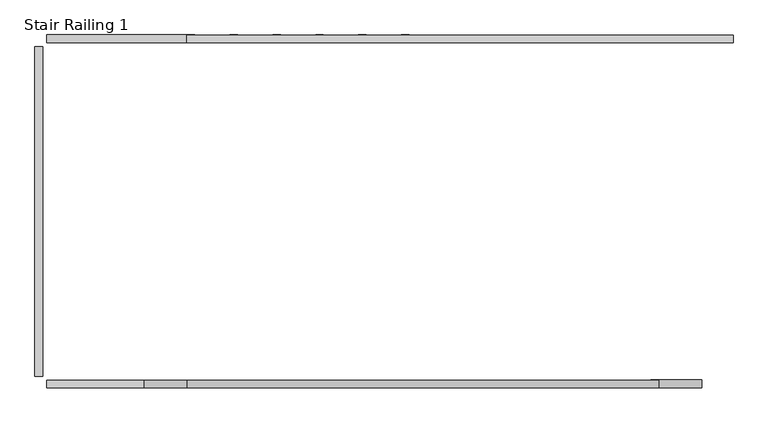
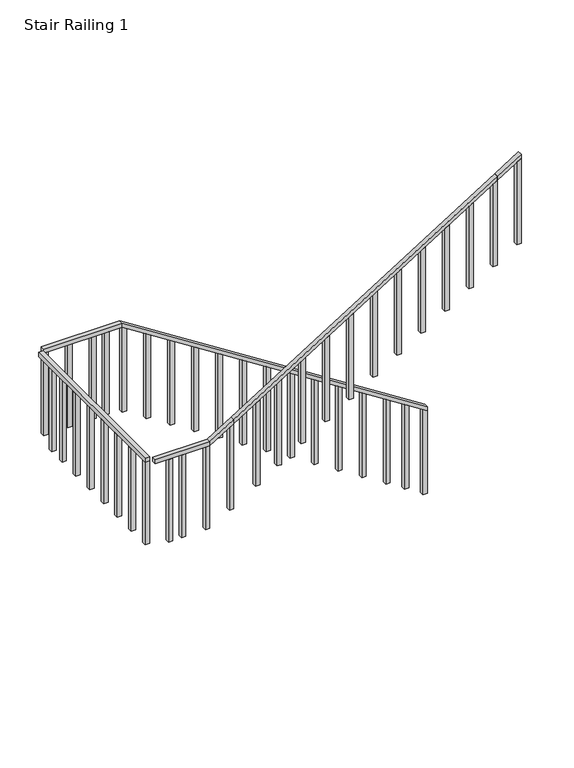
"""IFC4 building model written with IfcOpenShell, lengths in millimetres: railing geometry, Stair Railing 1."""

from ifc_helpers import new_model, si_unit, frame, origin, place, context, project, spatial, polyline, outline, extrude, source, transform, mapped, element, save


def stair_railing_1_055cd317(model_context):
    return source(origin(), model_context, "Body", "SweptSolid", [
        extrude(outline(polyline([(13727.2888889, -65612.3987232), (13676.4888889, -65612.3987232), (11401.7777778, -62053.9245409), (11452.5777778, -62053.9245409), (13727.2888889, -65612.3987232)])), frame((0.0, 33673.381749, 0.0), z_axis=(0.0, 1.0, 0.0), x_axis=(0.0, 0.0, 1.0)), (0.0, 0.0, 1.0), 50.8),
        extrude(outline(polyline([(11434.2510566, -62104.7245409), (10385.7777778, -62104.7245409), (10385.7777778, -62053.9245409), (11401.7777778, -62053.9245409), (11434.2510566, -62104.7245409)])), frame((0.0, 33673.381749, 0.0), z_axis=(0.0, 1.0, 0.0), x_axis=(0.0, 0.0, 1.0)), (0.0, 0.0, 1.0), 50.8),
        extrude(outline(polyline([(11573.0532872, -62321.8616321), (10524.5800084, -62321.8616321), (10524.5800084, -62271.0616321), (11540.5800084, -62271.0616321), (11573.0532872, -62321.8616321)])), frame((0.0, 33673.381749, 0.0), z_axis=(0.0, 1.0, 0.0), x_axis=(0.0, 0.0, 1.0)), (0.0, 0.0, 1.0), 50.8),
        extrude(outline(polyline([(11711.8555178, -62538.9987232), (10663.3822389, -62538.9987232), (10663.3822389, -62488.1987232), (11679.3822389, -62488.1987232), (11711.8555178, -62538.9987232)])), frame((0.0, 33673.381749, 0.0), z_axis=(0.0, 1.0, 0.0), x_axis=(0.0, 0.0, 1.0)), (0.0, 0.0, 1.0), 50.8),
        extrude(outline(polyline([(11890.4585515, -62818.3987232), (10841.9852727, -62818.3987232), (10841.9852727, -62767.5987232), (11857.9852727, -62767.5987232), (11890.4585515, -62818.3987232)])), frame((0.0, 33673.381749, 0.0), z_axis=(0.0, 1.0, 0.0), x_axis=(0.0, 0.0, 1.0)), (0.0, 0.0, 1.0), 50.8),
        extrude(outline(polyline([(12069.0615853, -63097.7987232), (11020.5883064, -63097.7987232), (11020.5883064, -63046.9987232), (12036.5883064, -63046.9987232), (12069.0615853, -63097.7987232)])), frame((0.0, 33673.381749, 0.0), z_axis=(0.0, 1.0, 0.0), x_axis=(0.0, 0.0, 1.0)), (0.0, 0.0, 1.0), 50.8),
        extrude(outline(polyline([(12247.664619, -63377.1987232), (11199.1913401, -63377.1987232), (11199.1913401, -63326.3987232), (12215.1913401, -63326.3987232), (12247.664619, -63377.1987232)])), frame((0.0, 33673.381749, 0.0), z_axis=(0.0, 1.0, 0.0), x_axis=(0.0, 0.0, 1.0)), (0.0, 0.0, 1.0), 50.8),
        extrude(outline(polyline([(12426.2676527, -63656.5987232), (11377.7943739, -63656.5987232), (11377.7943739, -63605.7987232), (12393.7943739, -63605.7987232), (12426.2676527, -63656.5987232)])), frame((0.0, 33673.381749, 0.0), z_axis=(0.0, 1.0, 0.0), x_axis=(0.0, 0.0, 1.0)), (0.0, 0.0, 1.0), 50.8),
        extrude(outline(polyline([(12604.8706865, -63935.9987232), (11556.3974076, -63935.9987232), (11556.3974076, -63885.1987232), (12572.3974076, -63885.1987232), (12604.8706865, -63935.9987232)])), frame((0.0, 33673.381749, 0.0), z_axis=(0.0, 1.0, 0.0), x_axis=(0.0, 0.0, 1.0)), (0.0, 0.0, 1.0), 50.8),
        extrude(outline(polyline([(12783.4737202, -64215.3987232), (11735.0004413, -64215.3987232), (11735.0004413, -64164.5987232), (12751.0004413, -64164.5987232), (12783.4737202, -64215.3987232)])), frame((0.0, 33673.381749, 0.0), z_axis=(0.0, 1.0, 0.0), x_axis=(0.0, 0.0, 1.0)), (0.0, 0.0, 1.0), 50.8),
        extrude(outline(polyline([(12962.0767539, -64494.7987232), (11913.6034751, -64494.7987232), (11913.6034751, -64443.9987232), (12929.6034751, -64443.9987232), (12962.0767539, -64494.7987232)])), frame((0.0, 33673.381749, 0.0), z_axis=(0.0, 1.0, 0.0), x_axis=(0.0, 0.0, 1.0)), (0.0, 0.0, 1.0), 50.8),
        extrude(outline(polyline([(13140.6797877, -64774.1987232), (12092.2065088, -64774.1987232), (12092.2065088, -64723.3987232), (13108.2065088, -64723.3987232), (13140.6797877, -64774.1987232)])), frame((0.0, 33673.381749, 0.0), z_axis=(0.0, 1.0, 0.0), x_axis=(0.0, 0.0, 1.0)), (0.0, 0.0, 1.0), 50.8),
        extrude(outline(polyline([(13319.2828214, -65053.5987232), (12270.8095426, -65053.5987232), (12270.8095426, -65002.7987232), (13286.8095426, -65002.7987232), (13319.2828214, -65053.5987232)])), frame((0.0, 33673.381749, 0.0), z_axis=(0.0, 1.0, 0.0), x_axis=(0.0, 0.0, 1.0)), (0.0, 0.0, 1.0), 50.8),
        extrude(outline(polyline([(13497.8858552, -65332.9987232), (12449.4125763, -65332.9987232), (12449.4125763, -65282.1987232), (13465.4125763, -65282.1987232), (13497.8858552, -65332.9987232)])), frame((0.0, 33673.381749, 0.0), z_axis=(0.0, 1.0, 0.0), x_axis=(0.0, 0.0, 1.0)), (0.0, 0.0, 1.0), 50.8),
        extrude(outline(polyline([(13676.4888889, -65612.3987232), (12628.01561, -65612.3987232), (12628.01561, -65561.5987232), (13644.01561, -65561.5987232), (13676.4888889, -65612.3987232)])), frame((0.0, 33673.381749, 0.0), z_axis=(0.0, 1.0, 0.0), x_axis=(0.0, 0.0, 1.0)), (0.0, 0.0, 1.0), 50.8),
        extrude(outline(polyline([(-66526.7987232, 33673.381749), (-66526.7987232, 33724.181749), (-65612.3987232, 33724.181749), (-65612.3987232, 33673.381749), (-66526.7987232, 33673.381749)])), frame((0.0, 0.0, 13676.4888889), z_axis=(0.0, 0.0, 1.0), x_axis=(1.0, 0.0, 0.0)), (0.0, 0.0, 1.0), 50.8),
        extrude(outline(polyline([(-65764.7987232, 33673.381749), (-65815.5987232, 33673.381749), (-65815.5987232, 33724.181749), (-65764.7987232, 33724.181749), (-65764.7987232, 33673.381749)])), frame((0.0, 0.0, 12660.4888889), z_axis=(0.0, 0.0, 1.0), x_axis=(1.0, 0.0, 0.0)), (0.0, 0.0, 1.0), 1016.0),
        extrude(outline(polyline([(-65917.1987232, 33673.381749), (-65967.9987232, 33673.381749), (-65967.9987232, 33724.181749), (-65917.1987232, 33724.181749), (-65917.1987232, 33673.381749)])), frame((0.0, 0.0, 12660.4888889), z_axis=(0.0, 0.0, 1.0), x_axis=(1.0, 0.0, 0.0)), (0.0, 0.0, 1.0), 1016.0),
        extrude(outline(polyline([(-66196.5987232, 33673.381749), (-66247.3987232, 33673.381749), (-66247.3987232, 33724.181749), (-66196.5987232, 33724.181749), (-66196.5987232, 33673.381749)])), frame((0.0, 0.0, 12660.4888889), z_axis=(0.0, 0.0, 1.0), x_axis=(1.0, 0.0, 0.0)), (0.0, 0.0, 1.0), 1016.0),
        extrude(outline(polyline([(-66475.9987232, 33673.381749), (-66526.7987232, 33673.381749), (-66526.7987232, 33724.181749), (-66475.9987232, 33724.181749), (-66475.9987232, 33673.381749)])), frame((0.0, 0.0, 12660.4888889), z_axis=(0.0, 0.0, 1.0), x_axis=(1.0, 0.0, 0.0)), (0.0, 0.0, 1.0), 1016.0),
        extrude(outline(polyline([(-66552.1987232, 31497.8982705), (-66602.9987232, 31497.8982705), (-66602.9987232, 33647.981749), (-66552.1987232, 33647.981749), (-66552.1987232, 31497.8982705)])), frame((0.0, 0.0, 13676.4888889), z_axis=(0.0, 0.0, 1.0), x_axis=(1.0, 0.0, 0.0)), (0.0, 0.0, 1.0), 50.8),
        extrude(outline(polyline([(-66552.1987232, 33436.5400097), (-66552.1987232, 33385.7400097), (-66602.9987232, 33385.7400097), (-66602.9987232, 33436.5400097), (-66552.1987232, 33436.5400097)])), frame((0.0, 0.0, 12660.4888889), z_axis=(0.0, 0.0, 1.0), x_axis=(1.0, 0.0, 0.0)), (0.0, 0.0, 1.0), 1016.0),
        extrude(outline(polyline([(-66552.1987232, 33225.0982705), (-66552.1987232, 33174.2982705), (-66602.9987232, 33174.2982705), (-66602.9987232, 33225.0982705), (-66552.1987232, 33225.0982705)])), frame((0.0, 0.0, 12660.4888889), z_axis=(0.0, 0.0, 1.0), x_axis=(1.0, 0.0, 0.0)), (0.0, 0.0, 1.0), 1016.0),
        extrude(outline(polyline([(-66552.1987232, 32945.6982705), (-66552.1987232, 32894.8982705), (-66602.9987232, 32894.8982705), (-66602.9987232, 32945.6982705), (-66552.1987232, 32945.6982705)])), frame((0.0, 0.0, 12660.4888889), z_axis=(0.0, 0.0, 1.0), x_axis=(1.0, 0.0, 0.0)), (0.0, 0.0, 1.0), 1016.0),
        extrude(outline(polyline([(-66552.1987232, 32666.2982705), (-66552.1987232, 32615.4982705), (-66602.9987232, 32615.4982705), (-66602.9987232, 32666.2982705), (-66552.1987232, 32666.2982705)])), frame((0.0, 0.0, 12660.4888889), z_axis=(0.0, 0.0, 1.0), x_axis=(1.0, 0.0, 0.0)), (0.0, 0.0, 1.0), 1016.0),
        extrude(outline(polyline([(-66552.1987232, 32386.8982705), (-66552.1987232, 32336.0982705), (-66602.9987232, 32336.0982705), (-66602.9987232, 32386.8982705), (-66552.1987232, 32386.8982705)])), frame((0.0, 0.0, 12660.4888889), z_axis=(0.0, 0.0, 1.0), x_axis=(1.0, 0.0, 0.0)), (0.0, 0.0, 1.0), 1016.0),
        extrude(outline(polyline([(-66552.1987232, 32107.4982705), (-66552.1987232, 32056.6982705), (-66602.9987232, 32056.6982705), (-66602.9987232, 32107.4982705), (-66552.1987232, 32107.4982705)])), frame((0.0, 0.0, 12660.4888889), z_axis=(0.0, 0.0, 1.0), x_axis=(1.0, 0.0, 0.0)), (0.0, 0.0, 1.0), 1016.0),
        extrude(outline(polyline([(-66552.1987232, 31828.0982705), (-66552.1987232, 31777.2982705), (-66602.9987232, 31777.2982705), (-66602.9987232, 31828.0982705), (-66552.1987232, 31828.0982705)])), frame((0.0, 0.0, 12660.4888889), z_axis=(0.0, 0.0, 1.0), x_axis=(1.0, 0.0, 0.0)), (0.0, 0.0, 1.0), 1016.0),
        extrude(outline(polyline([(-66552.1987232, 31548.6982705), (-66552.1987232, 31497.8982705), (-66602.9987232, 31497.8982705), (-66602.9987232, 31548.6982705), (-66552.1987232, 31548.6982705)])), frame((0.0, 0.0, 12660.4888889), z_axis=(0.0, 0.0, 1.0), x_axis=(1.0, 0.0, 0.0)), (0.0, 0.0, 1.0), 1016.0),
        extrude(outline(polyline([(-65891.7987232, 31472.4982705), (-65891.7987232, 31421.6982705), (-66526.7987232, 31421.6982705), (-66526.7987232, 31472.4982705), (-65891.7987232, 31472.4982705)])), frame((0.0, 0.0, 13676.4888889), z_axis=(0.0, 0.0, 1.0), x_axis=(1.0, 0.0, 0.0)), (0.0, 0.0, 1.0), 50.8),
        extrude(outline(polyline([(-66374.3987232, 31472.4982705), (-66323.5987232, 31472.4982705), (-66323.5987232, 31421.6982705), (-66374.3987232, 31421.6982705), (-66374.3987232, 31472.4982705)])), frame((0.0, 0.0, 12660.4888889), z_axis=(0.0, 0.0, 1.0), x_axis=(1.0, 0.0, 0.0)), (0.0, 0.0, 1.0), 1016.0),
        extrude(outline(polyline([(-66221.9987232, 31472.4982705), (-66171.1987232, 31472.4982705), (-66171.1987232, 31421.6982705), (-66221.9987232, 31421.6982705), (-66221.9987232, 31472.4982705)])), frame((0.0, 0.0, 12660.4888889), z_axis=(0.0, 0.0, 1.0), x_axis=(1.0, 0.0, 0.0)), (0.0, 0.0, 1.0), 1016.0),
        extrude(outline(polyline([(-65942.5987232, 31472.4982705), (-65891.7987232, 31472.4982705), (-65891.7987232, 31421.6982705), (-65942.5987232, 31421.6982705), (-65942.5987232, 31472.4982705)])), frame((0.0, 0.0, 12660.4888889), z_axis=(0.0, 0.0, 1.0), x_axis=(1.0, 0.0, 0.0)), (0.0, 0.0, 1.0), 1016.0),
        extrude(outline(polyline([(13851.4666667, -65612.3987232), (13902.2666667, -65612.3987232), (13727.2888889, -65891.7987232), (13676.4888889, -65891.7987232), (13851.4666667, -65612.3987232)])), frame((0.0, 31421.6982705, 0.0), z_axis=(0.0, 1.0, 0.0), x_axis=(0.0, 0.0, 1.0)), (0.0, 0.0, 1.0), 50.8),
        extrude(outline(polyline([(13819.6525253, -65663.1987232), (12803.6525253, -65663.1987232), (12803.6525253, -65612.3987232), (13851.4666667, -65612.3987232), (13819.6525253, -65663.1987232)])), frame((0.0, 31421.6982705, 0.0), z_axis=(0.0, 1.0, 0.0), x_axis=(0.0, 0.0, 1.0)), (0.0, 0.0, 1.0), 50.8),
        extrude(outline(polyline([(15776.2222222, -62538.9987232), (15827.0222222, -62538.9987232), (13902.2666667, -65612.3987232), (13851.4666667, -65612.3987232), (15776.2222222, -62538.9987232)])), frame((0.0, 31421.6982705, 0.0), z_axis=(0.0, 1.0, 0.0), x_axis=(0.0, 0.0, 1.0)), (0.0, 0.0, 1.0), 50.8),
        extrude(outline(polyline([(14010.5373737, -65358.3987232), (12994.5373737, -65358.3987232), (12994.5373737, -65307.5987232), (14042.3515152, -65307.5987232), (14010.5373737, -65358.3987232)])), frame((0.0, 31421.6982705, 0.0), z_axis=(0.0, 1.0, 0.0), x_axis=(0.0, 0.0, 1.0)), (0.0, 0.0, 1.0), 50.8),
        extrude(outline(polyline([(14169.6080808, -65104.3987232), (13153.6080808, -65104.3987232), (13153.6080808, -65053.5987232), (14201.4222222, -65053.5987232), (14169.6080808, -65104.3987232)])), frame((0.0, 31421.6982705, 0.0), z_axis=(0.0, 1.0, 0.0), x_axis=(0.0, 0.0, 1.0)), (0.0, 0.0, 1.0), 50.8),
        extrude(outline(polyline([(14344.5858586, -64824.9987232), (13328.5858586, -64824.9987232), (13328.5858586, -64774.1987232), (14376.4, -64774.1987232), (14344.5858586, -64824.9987232)])), frame((0.0, 31421.6982705, 0.0), z_axis=(0.0, 1.0, 0.0), x_axis=(0.0, 0.0, 1.0)), (0.0, 0.0, 1.0), 50.8),
        extrude(outline(polyline([(14519.5636364, -64545.5987232), (13503.5636364, -64545.5987232), (13503.5636364, -64494.7987232), (14551.3777778, -64494.7987232), (14519.5636364, -64545.5987232)])), frame((0.0, 31421.6982705, 0.0), z_axis=(0.0, 1.0, 0.0), x_axis=(0.0, 0.0, 1.0)), (0.0, 0.0, 1.0), 50.8),
        extrude(outline(polyline([(14694.5414141, -64266.1987232), (13678.5414141, -64266.1987232), (13678.5414141, -64215.3987232), (14726.3555556, -64215.3987232), (14694.5414141, -64266.1987232)])), frame((0.0, 31421.6982705, 0.0), z_axis=(0.0, 1.0, 0.0), x_axis=(0.0, 0.0, 1.0)), (0.0, 0.0, 1.0), 50.8),
        extrude(outline(polyline([(14869.5191919, -63986.7987232), (13853.5191919, -63986.7987232), (13853.5191919, -63935.9987232), (14901.3333333, -63935.9987232), (14869.5191919, -63986.7987232)])), frame((0.0, 31421.6982705, 0.0), z_axis=(0.0, 1.0, 0.0), x_axis=(0.0, 0.0, 1.0)), (0.0, 0.0, 1.0), 50.8),
        extrude(outline(polyline([(15044.4969697, -63707.3987232), (14028.4969697, -63707.3987232), (14028.4969697, -63656.5987232), (15076.3111111, -63656.5987232), (15044.4969697, -63707.3987232)])), frame((0.0, 31421.6982705, 0.0), z_axis=(0.0, 1.0, 0.0), x_axis=(0.0, 0.0, 1.0)), (0.0, 0.0, 1.0), 50.8),
        extrude(outline(polyline([(15219.4747475, -63427.9987232), (14203.4747475, -63427.9987232), (14203.4747475, -63377.1987232), (15251.2888889, -63377.1987232), (15219.4747475, -63427.9987232)])), frame((0.0, 31421.6982705, 0.0), z_axis=(0.0, 1.0, 0.0), x_axis=(0.0, 0.0, 1.0)), (0.0, 0.0, 1.0), 50.8),
        extrude(outline(polyline([(15394.4525253, -63148.5987232), (14378.4525253, -63148.5987232), (14378.4525253, -63097.7987232), (15426.2666667, -63097.7987232), (15394.4525253, -63148.5987232)])), frame((0.0, 31421.6982705, 0.0), z_axis=(0.0, 1.0, 0.0), x_axis=(0.0, 0.0, 1.0)), (0.0, 0.0, 1.0), 50.8),
        extrude(outline(polyline([(15569.430303, -62869.1987232), (14553.430303, -62869.1987232), (14553.430303, -62818.3987232), (15601.2444444, -62818.3987232), (15569.430303, -62869.1987232)])), frame((0.0, 31421.6982705, 0.0), z_axis=(0.0, 1.0, 0.0), x_axis=(0.0, 0.0, 1.0)), (0.0, 0.0, 1.0), 50.8),
        extrude(outline(polyline([(15744.4080808, -62589.7987232), (14728.4080808, -62589.7987232), (14728.4080808, -62538.9987232), (15776.2222222, -62538.9987232), (15744.4080808, -62589.7987232)])), frame((0.0, 31421.6982705, 0.0), z_axis=(0.0, 1.0, 0.0), x_axis=(0.0, 0.0, 1.0)), (0.0, 0.0, 1.0), 50.8),
        extrude(outline(polyline([(15951.2, -62259.5987232), (16002.0, -62259.5987232), (15827.0222222, -62538.9987232), (15776.2222222, -62538.9987232), (15951.2, -62259.5987232)])), frame((0.0, 31421.6982705, 0.0), z_axis=(0.0, 1.0, 0.0), x_axis=(0.0, 0.0, 1.0)), (0.0, 0.0, 1.0), 50.8),
        extrude(outline(polyline([(15919.3858586, -62310.3987232), (14903.3858586, -62310.3987232), (14903.3858586, -62259.5987232), (15951.2, -62259.5987232), (15919.3858586, -62310.3987232)])), frame((0.0, 31421.6982705, 0.0), z_axis=(0.0, 1.0, 0.0), x_axis=(0.0, 0.0, 1.0)), (0.0, 0.0, 1.0), 50.8),
    ])


if __name__ == "__main__":
    model = new_model("IFC4")
    model_context = context("Model", 3, world=origin())
    ifc_project = project(units=[si_unit("LENGTHUNIT", "METRE", prefix="MILLI")], contexts=[model_context])
    site = spatial("IfcSite", under=ifc_project)
    building = spatial("IfcBuilding", under=site)
    placement = place(None, origin())
    stair_railing_1_shape = stair_railing_1_055cd317(model_context)
    element("IfcRailing", 1, ObjectType="Stair Railing 1", at=placement, inside=building, context=model_context, shape_type="MappedRepresentation", body=[
        mapped(stair_railing_1_shape, transform((0.0, 0.0, 0.0), x_axis=(1.0, 0.0, 0.0), y_axis=(0.0, 1.0, 0.0), z_axis=(0.0, 0.0, 1.0))),
    ])
    save(model, "model.ifc")
